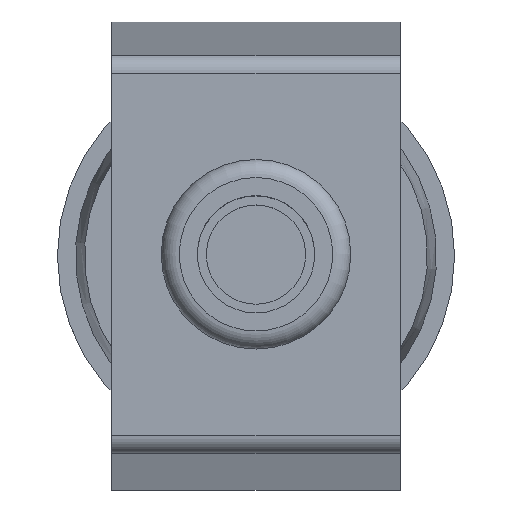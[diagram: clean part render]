
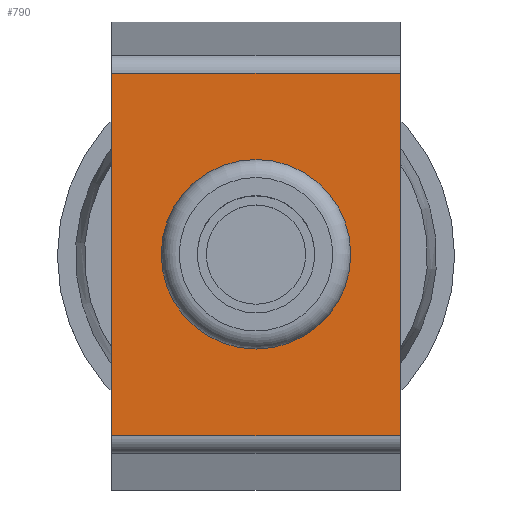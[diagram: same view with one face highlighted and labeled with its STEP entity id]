
A CAD part, top view. The second image highlights one B-rep face of the part: STEP entity #790.
In plain terms, the highlighted planar face has unit normal (0, 0, 1) as drawn and (0, 1, 0) by its records, which use the part's own axes.
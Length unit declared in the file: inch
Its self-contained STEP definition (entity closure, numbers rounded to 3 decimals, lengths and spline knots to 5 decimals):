
#225=CARTESIAN_POINT('',(0.95604,4.70352,-1.0));
#226=VERTEX_POINT('',#225);
#227=CARTESIAN_POINT('',(0.42479,4.70352,-1.0));
#228=DIRECTION('',(0.0,-1.0,0.0));
#229=DIRECTION('',(1.0,0.0,0.0));
#230=AXIS2_PLACEMENT_3D('',#227,#228,#229);
#231=CIRCLE('',#230,0.53125);
#232=EDGE_CURVE('',#226,#226,#231,.T.);
#729=CARTESIAN_POINT('',(1.67929,4.70352,-2.0));
#730=VERTEX_POINT('',#729);
#738=CARTESIAN_POINT('',(1.67929,4.70352,0.0));
#739=VERTEX_POINT('',#738);
#740=CARTESIAN_POINT('',(1.67929,4.70352,0.0));
#741=DIRECTION('',(0.0,0.0,-1.0));
#742=VECTOR('',#741,2.0);
#743=LINE('',#740,#742);
#744=EDGE_CURVE('',#739,#730,#743,.T.);
#757=CARTESIAN_POINT('',(1.67929,4.70352,0.0));
#758=DIRECTION('',(0.0,1.0,0.0));
#759=DIRECTION('',(0.0,0.0,1.0));
#760=AXIS2_PLACEMENT_3D('',#757,#758,#759);
#761=PLANE('',#760);
#762=CARTESIAN_POINT('',(-0.8298,4.70352,-2.0));
#763=VERTEX_POINT('',#762);
#764=CARTESIAN_POINT('',(1.67929,4.70352,-2.0));
#765=DIRECTION('',(-1.0,0.0,0.0));
#766=VECTOR('',#765,2.50909);
#767=LINE('',#764,#766);
#768=EDGE_CURVE('',#730,#763,#767,.T.);
#769=ORIENTED_EDGE('',*,*,#768,.T.);
#770=CARTESIAN_POINT('',(-0.8298,4.70352,0.0));
#771=VERTEX_POINT('',#770);
#772=CARTESIAN_POINT('',(-0.8298,4.70352,0.0));
#773=DIRECTION('',(0.0,0.0,-1.0));
#774=VECTOR('',#773,2.0);
#775=LINE('',#772,#774);
#776=EDGE_CURVE('',#771,#763,#775,.T.);
#777=ORIENTED_EDGE('',*,*,#776,.F.);
#778=CARTESIAN_POINT('',(1.67929,4.70352,0.0));
#779=DIRECTION('',(-1.0,0.0,0.0));
#780=VECTOR('',#779,2.50909);
#781=LINE('',#778,#780);
#782=EDGE_CURVE('',#739,#771,#781,.T.);
#783=ORIENTED_EDGE('',*,*,#782,.F.);
#784=ORIENTED_EDGE('',*,*,#744,.T.);
#785=EDGE_LOOP('',(#769,#777,#783,#784));
#786=FACE_OUTER_BOUND('',#785,.T.);
#787=ORIENTED_EDGE('',*,*,#232,.T.);
#788=EDGE_LOOP('',(#787));
#789=FACE_BOUND('',#788,.T.);
#790=ADVANCED_FACE('',(#786,#789),#761,.T.);
